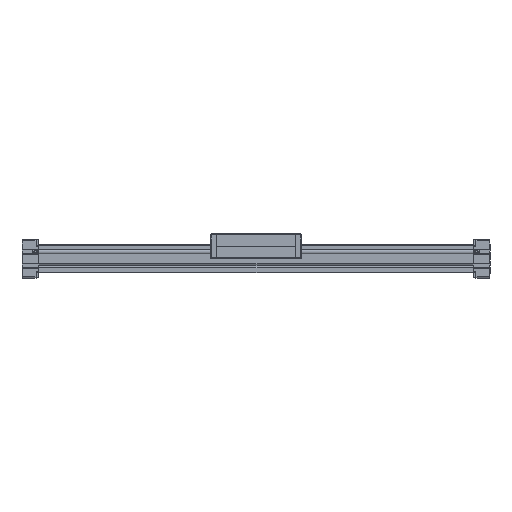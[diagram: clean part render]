
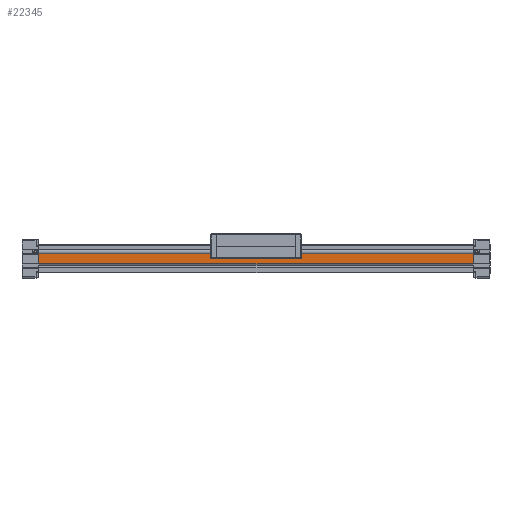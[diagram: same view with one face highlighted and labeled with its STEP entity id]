
A CAD part, top view. The second image highlights one B-rep face of the part: STEP entity #22345.
In plain terms, the highlighted planar face has unit normal (0, 0, 1) as drawn and (0, 0, -1) by its records, which use the part's own axes.
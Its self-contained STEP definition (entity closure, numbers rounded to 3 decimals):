
#224 = VECTOR ( 'NONE', #18340, 1000. ) ;
#293 = CARTESIAN_POINT ( 'NONE',  ( 930., -10.76, -30. ) ) ;
#2085 = LINE ( 'NONE', #20758, #7936 ) ;
#2113 = VERTEX_POINT ( 'NONE', #293 ) ;
#3881 = CARTESIAN_POINT ( 'NONE',  ( 930., 0., -30. ) ) ;
#4135 = AXIS2_PLACEMENT_3D ( 'NONE', #21123, #13726, #31140 ) ;
#6004 = CARTESIAN_POINT ( 'NONE',  ( 0., 10.76, -30. ) ) ;
#6361 = LINE ( 'NONE', #3881, #13010 ) ;
#6786 = VERTEX_POINT ( 'NONE', #6004 ) ;
#7936 = VECTOR ( 'NONE', #23275, 1000. ) ;
#8663 = ORIENTED_EDGE ( 'NONE', *, *, #30520, .F. ) ;
#9097 = ORIENTED_EDGE ( 'NONE', *, *, #16033, .F. ) ;
#12211 = EDGE_CURVE ( 'NONE', #24525, #2113, #6361, .T. ) ;
#13010 = VECTOR ( 'NONE', #23871, 1000. ) ;
#13726 = DIRECTION ( 'NONE',  ( 0., 0., -1. ) ) ;
#14673 = LINE ( 'NONE', #19485, #26364 ) ;
#15590 = EDGE_LOOP ( 'NONE', ( #9097, #8663, #15708, #16632 ) ) ;
#15708 = ORIENTED_EDGE ( 'NONE', *, *, #12211, .T. ) ;
#16033 = EDGE_CURVE ( 'NONE', #6786, #25288, #26756, .T. ) ;
#16632 = ORIENTED_EDGE ( 'NONE', *, *, #26226, .T. ) ;
#16864 = CARTESIAN_POINT ( 'NONE',  ( 0., -10.76, -30. ) ) ;
#18340 = DIRECTION ( 'NONE',  ( 0., -1., 0. ) ) ;
#19485 = CARTESIAN_POINT ( 'NONE',  ( 930., 10.76, -30. ) ) ;
#20758 = CARTESIAN_POINT ( 'NONE',  ( 930., -10.76, -30. ) ) ;
#21123 = CARTESIAN_POINT ( 'NONE',  ( 930., 0., -30. ) ) ;
#22345 = ADVANCED_FACE ( 'NONE', ( #30147 ), #28643, .T. ) ;
#23050 = CARTESIAN_POINT ( 'NONE',  ( 930., 10.76, -30. ) ) ;
#23275 = DIRECTION ( 'NONE',  ( -1., 0., 0. ) ) ;
#23284 = CARTESIAN_POINT ( 'NONE',  ( 0., 0., -30. ) ) ;
#23871 = DIRECTION ( 'NONE',  ( 0., -1., 0. ) ) ;
#24525 = VERTEX_POINT ( 'NONE', #23050 ) ;
#25288 = VERTEX_POINT ( 'NONE', #16864 ) ;
#26226 = EDGE_CURVE ( 'NONE', #2113, #25288, #2085, .T. ) ;
#26364 = VECTOR ( 'NONE', #29501, 1000. ) ;
#26756 = LINE ( 'NONE', #23284, #224 ) ;
#28643 = PLANE ( 'NONE',  #4135 ) ;
#29501 = DIRECTION ( 'NONE',  ( -1., 0., 0. ) ) ;
#30147 = FACE_OUTER_BOUND ( 'NONE', #15590, .T. ) ;
#30520 = EDGE_CURVE ( 'NONE', #24525, #6786, #14673, .T. ) ;
#31140 = DIRECTION ( 'NONE',  ( -1., 0., 0. ) ) ;
